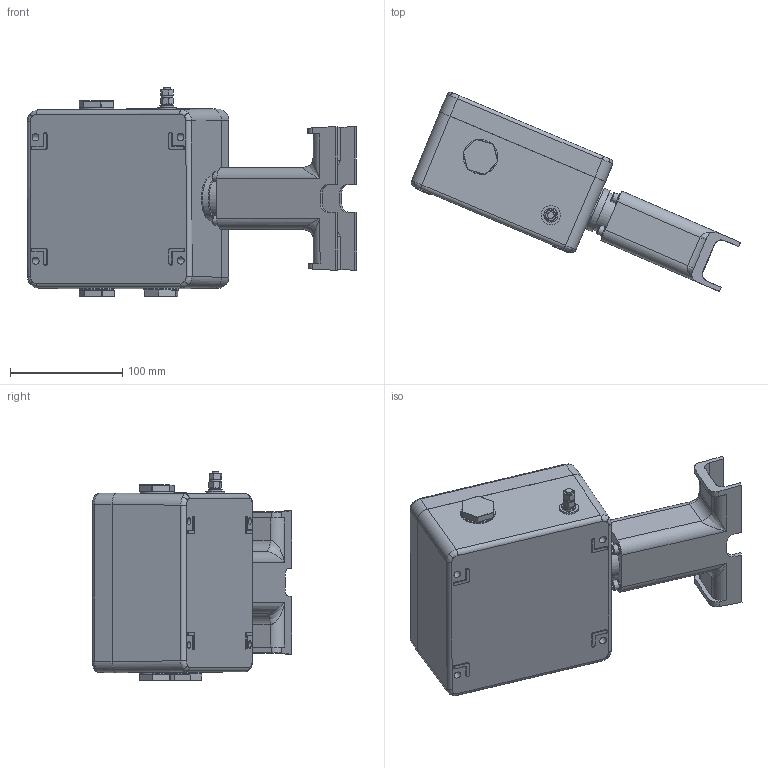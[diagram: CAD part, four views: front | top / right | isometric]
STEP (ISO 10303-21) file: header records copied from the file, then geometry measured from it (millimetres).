
FILE_DESCRIPTION(/* description */ (''),/* implementation_level */ '2;1');
FILE_NAME(/* name */ 'E:\Документы\\X2\041F0440043E0435043A0442044B\X0\ ТЕРМ\\X2\041A043E0440043E0431043A0438\X0\ соединительные\Взрывозащищённые коробки\TERMBOX Ex 160N\TERMBOX Ex 160N.stp',/* time_stamp */ '2025-10-02T16:18:45+05:00',/* author */ ('Vlad'),/* organization */ (''),/* preprocessor_version */ 'ST-DEVELOPER v15.6',/* originating_system */ 'Autodesk Inventor 2015',/* authorisation */ '');
FILE_SCHEMA (('AUTOMOTIVE_DESIGN { 1 0 10303 214 3 1 1 }'));
Length unit declared in the file: millimetre
Products named in the file (39): 86224; 86222; 23046-Ex Unterteil; DIN-6; UT10; UT10 заземление; UT10 серый; Винт A2.M6-6gx8 \X2\0413041E04210422
\X0\ 17473-80; Кольцо; Заглушка \X2\044704510440
043D0430044F\X0\; FBS_2-10; BT003; Шпилька; Гайка M6 ГОСТ 
15526-70; Шайба 6 ГОСТ 
11371-78; Шайба 8 ГОСТ 
11371-78; Шайба 2У 6Л 
ГОСТ 6402-78; НШВИ 6,0х6; Кабельный \X2\043D0430043A043E043D
04350447043D0438043A\X0\ кольцевой 
6 кв.мм; Провод для \X2\043F04350440
0435043C044B0447043A0438\X0\ в \X2\043A043E0440043F04430441
\X0\ 160 мм; Перемычка в \X2\043C043E
04340435043B044C\X0\ корпуса 160 \X2\043C
043C\X0\; TERMBOX Ex 160N корпус; Нога; Шайба 5 ГОСТ 
11371-78; Гайка к \X2\043D043E
04330435\X0\; Кольцо к \X2\043D
043E04330435\X0\; Заглушка \X2\043A043004310435043B044F
\X0\ универсальная; Винт M5-6gx40 \X2\0413041E04210422
\X0\ 11738-84; Костыль для \X2\04370430
0442044B0447043A0438\X0\ саморега \X2\043C
0430043B043E0433043E\X0\; Костыль для \X2\04370430
0433043B04430448043A0438\X0\ резистива; Шайба к \X2\043D043E
04330435\X0\; Устройство \X2\04320432043E0434
0430\X0\ под \X2\04420435043F043B043E04380437043E043B
044F04460438044E\X0\; 93135; 23046-Ex Deckel; Уплотнитель; Наклейка; TERMBOX Ex 160N крышка; TERMBOX Ex 160N
Assembly tree (78 placements, depth 4):
  TERMBOX Ex 160N
    TERMBOX Ex 160N корпус
      23046-Ex Unterteil
        86224  x4
        86222  x6
        23046-Ex Unterteil
      DIN-6
      UT10  x2
      UT10 заземление  x2
      UT10 серый  x3
      Винт A2.M6-6gx8 \X2\0413041E04210422
\X0\ 17473-80  x2
      Кольцо  x3
      Заглушка \X2\044704510440
043D0430044F\X0\  x3
      FBS_2-10
      BT003
      Шпилька
      Гайка M6 ГОСТ 
15526-70  x4
      Шайба 6 ГОСТ 
11371-78  x4
      Шайба 8 ГОСТ 
11371-78
      Шайба 2У 6Л 
ГОСТ 6402-78  x4
      Перемычка в \X2\043C043E
04340435043B044C\X0\ корпуса 160 \X2\043C
043C\X0\
        НШВИ 6,0х6
        Кабельный \X2\043D0430043A043E043D
04350447043D0438043A\X0\ кольцевой 
6 кв.мм
        Провод для \X2\043F04350440
0435043C044B0447043A0438\X0\ в \X2\043A043E0440043F04430441
\X0\ 160 мм
    Устройство \X2\04320432043E0434
0430\X0\ под \X2\04420435043F043B043E04380437043E043B
044F04460438044E\X0\
      Нога
      Шайба 5 ГОСТ 
11371-78  x4
      Гайка к \X2\043D043E
04330435\X0\
      Кольцо к \X2\043D
043E04330435\X0\
      Заглушка \X2\043A043004310435043B044F
\X0\ универсальная
      Винт M5-6gx40 \X2\0413041E04210422
\X0\ 11738-84  x4
      Костыль для \X2\04370430
0442044B0447043A0438\X0\ саморега \X2\043C
0430043B043E0433043E\X0\  x3
      Костыль для \X2\04370430
0433043B04430448043A0438\X0\ резистива  x4
      Шайба к \X2\043D043E
04330435\X0\
    TERMBOX Ex 160N крышка
      93135  x4
      23046-Ex Deckel
      Уплотнитель
      Наклейка
Bounding box: 293.31 x 177.29 x 187.01 mm (x, y, z)
Volume: 970277.7 mm3; surface area: 410500.9 mm2
Topology: 74 solids, 74 shells, 2607 faces, 6467 edges, 4103 vertices
Faces by surface type: plane 1477, cylinder 617, bspline 180, cone 174, torus 135, sphere 24
Full cylindrical faces by diameter (mm): 3.5 x2, 3.9 x1, 4.917 x4, 5 x31, 5.02 x10, 5.1 x14, 5.3 x12, 5.6 x2, 5.8 x8, 5.842 x1, 5.9 x1, 6 x8, 6.2 x1, 6.4 x4, 6.8 x1, 7.4 x10, 7.5 x4, 7.8 x1, 7.867 x1, 8 x4, 8.4 x1, 8.5 x4, 10 x6, 12.5 x4, 17 x1, 19 x3, 23 x8, 25 x3, 30.5 x1, 31 x3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
Entity records: 49345 total; most frequent: CARTESIAN_POINT 12513, DIRECTION 7718, ORIENTED_EDGE 7168, EDGE_CURVE 3584, AXIS2_PLACEMENT_3D 2840, VERTEX_POINT 2327, LINE 2038, VECTOR 2038
